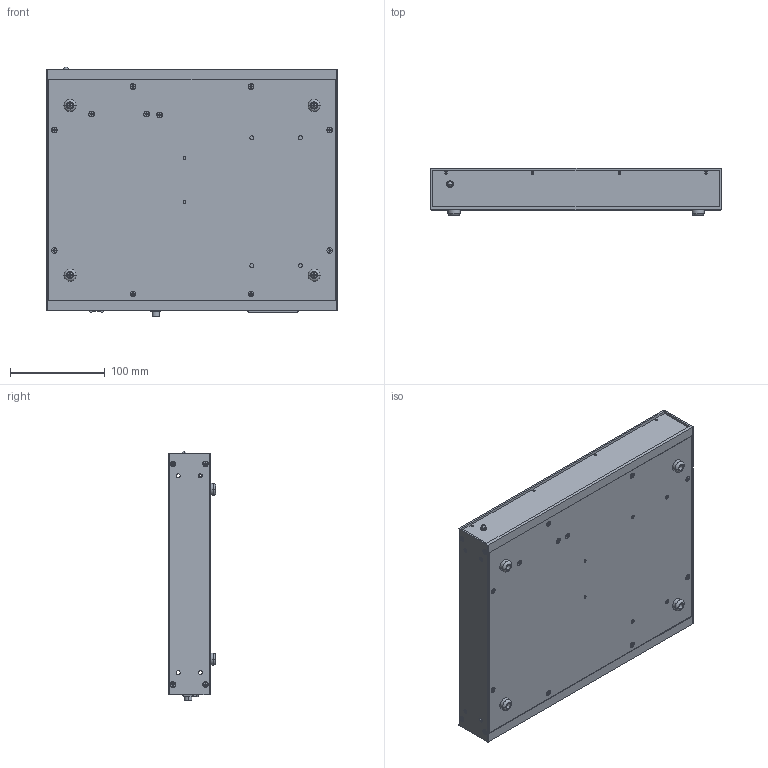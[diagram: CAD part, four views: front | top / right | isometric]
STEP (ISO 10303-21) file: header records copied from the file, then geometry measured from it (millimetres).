
FILE_DESCRIPTION((''),'2;1');
FILE_NAME('CU_USB_DAQPADE_MASS_TERM','2007-08-28T',('jpearson'),(''),'PRO/ENGINEER BY PARAMETRIC TECHNOLOGY CORPORATION, 2006080','PRO/ENGINEER BY PARAMETRIC TECHNOLOGY CORPORATION, 2006080','');
FILE_SCHEMA(('CONFIG_CONTROL_DESIGN'));
Products named in the file (1): CU_USB_DAQPADE_MASS_TERM
Bounding box: 306.32 x 49.78 x 262.86 mm (x, y, z)
Volume: 469229.9 mm3; surface area: 465865 mm2
Topology: 3 solids, 3 shells, 1913 faces, 5283 edges, 2795 vertices
Faces by surface type: plane 715, bspline 640, cylinder 364, cone 162, torus 20, sphere 12
Entity records: 67829 total; most frequent: CARTESIAN_POINT 24839, ORIENTED_EDGE 9282, DIRECTION 7633, EDGE_CURVE 4641, VERTEX_POINT 3403, VECTOR 2751, LINE 2751, AXIS2_PLACEMENT_3D 2441
